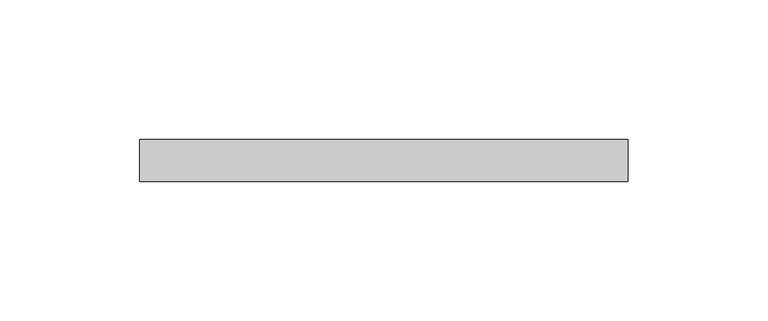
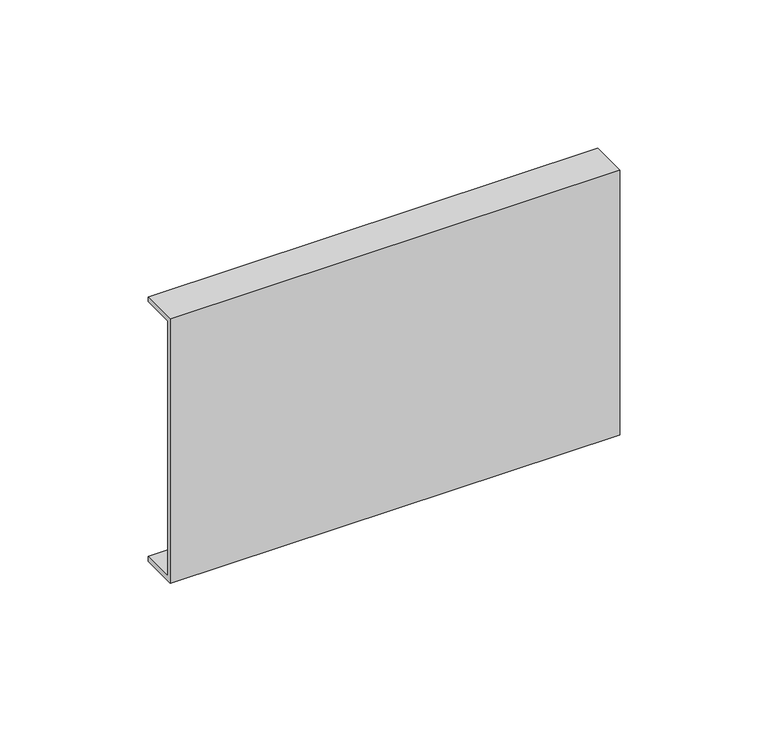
"""IFC4 building model written with IfcOpenShell, lengths in millimetres: cable carrier fitting geometry, BAKS_LD_CONN_Straight connector_LDC : LDC_H45."""

from ifc_helpers import new_model, si_unit, frame, origin, place, context, project, spatial, polyline, outline, extrude, source, transform, mapped, element, save


def cable_carrier_fitting_c78842c5(model_context):
    return source(origin(), model_context, "Body", "SweptSolid", [
        extrude(outline(polyline([(-2.0, 54.5), (13.0, 54.5), (13.0, 52.5), (0.0, 52.5), (0.0, -52.5), (13.0, -52.5), (13.0, -54.5), (-2.0, -54.5), (-2.0, 54.5)])), frame((-87.5, 0.0, 0.0), z_axis=(1.0, 0.0, 0.0), x_axis=(0.0, 1.0, 0.0)), (0.0, 0.0, 1.0), 175.0),
    ])


if __name__ == "__main__":
    model = new_model("IFC4")
    model_context = context("Model", 3, world=origin())
    ifc_project = project(units=[si_unit("LENGTHUNIT", "METRE", prefix="MILLI")], contexts=[model_context])
    site = spatial("IfcSite", under=ifc_project)
    building = spatial("IfcBuilding", under=site)
    placement = place(None, origin())
    cable_carrier_fitting_shape = cable_carrier_fitting_c78842c5(model_context)
    element("IfcCableCarrierFitting", 1, ObjectType="BAKS_LD_CONN_Straight connector_LDC : LDC_H45", at=placement, inside=building, context=model_context, shape_type="MappedRepresentation", body=[
        mapped(cable_carrier_fitting_shape, transform((0.0, 0.0, 0.0), x_axis=(1.0, 0.0, 0.0), y_axis=(0.0, 1.0, 0.0), z_axis=(0.0, 0.0, 1.0))),
    ])
    save(model, "model.ifc")
